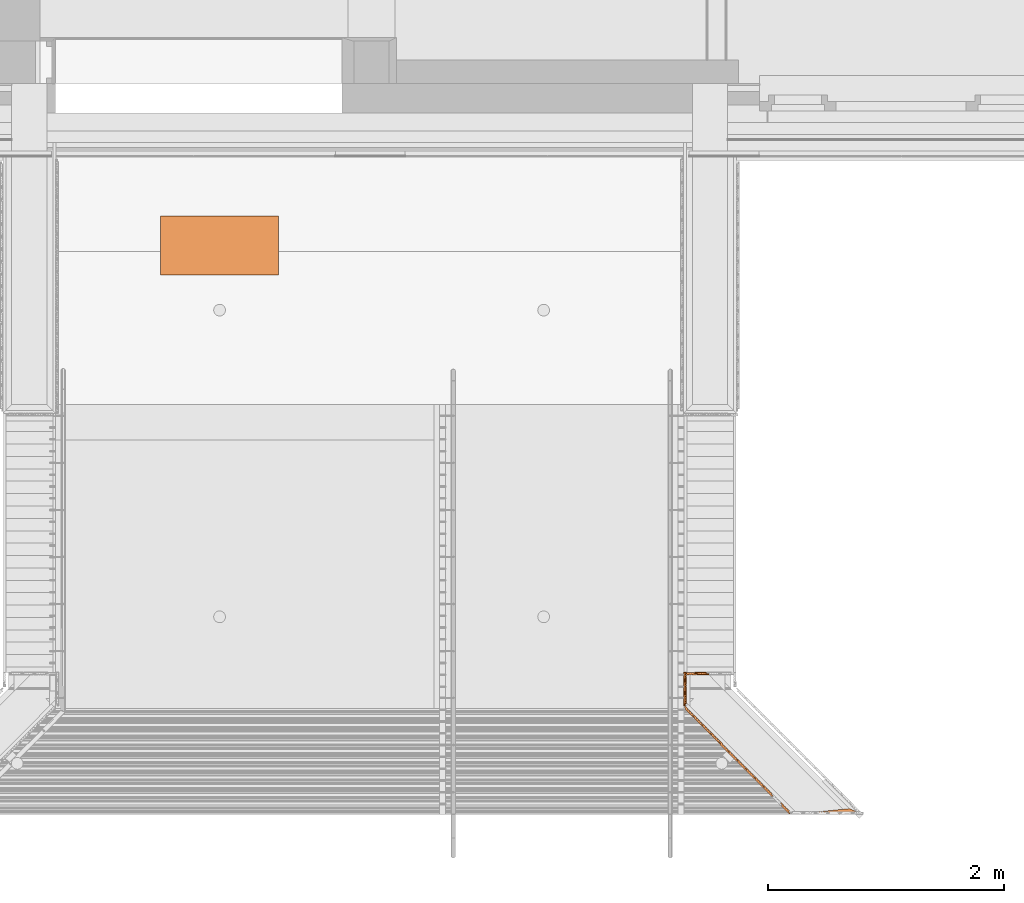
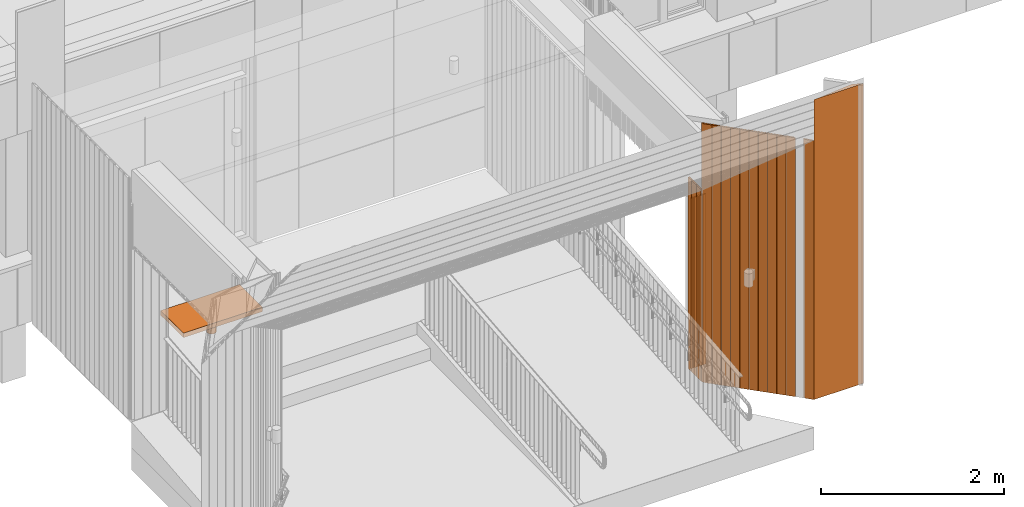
# One storey, part 347 of 418: 18 proxies.
"""IFC2X3 building model written with IfcOpenShell, lengths in millimetres."""

from ifc_helpers import new_model, entity, si_unit, converted_unit, derived_unit, money_unit, direction, frame, origin_with_axes, place, context, subcontext, project, spatial, polyline, outline, extrude, faceted_brep, source, transform, mapped, material, type_object, element, save


model = new_model("IFC2X3")

# Units and contexts
model_context = context("Model", 3, precision=0.01, world=origin_with_axes(), true_north=direction((0.0, 1.0)))
body_context = subcontext(model_context, "Body", "Model", "MODEL_VIEW")
ifc_project = project(units=[si_unit("LENGTHUNIT", "METRE", prefix="MILLI"), si_unit("AREAUNIT", "SQUARE_METRE"), si_unit("VOLUMEUNIT", "CUBIC_METRE"), converted_unit("PLANEANGLEUNIT", "DEGREE", entity("IfcPlaneAngleMeasure", 0.0174532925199), si_unit("PLANEANGLEUNIT", "RADIAN"), dimensions=[0, 0, 0, 0, 0, 0, 0]), si_unit("SOLIDANGLEUNIT", "STERADIAN"), money_unit("EUR"), converted_unit("TIMEUNIT", "Year", entity("IfcTimeMeasure", 31556926.0), si_unit("TIMEUNIT", "SECOND"), dimensions=[0, 0, 1, 0, 0, 0, 0]), si_unit("MASSUNIT", "GRAM", prefix="KILO"), si_unit("THERMODYNAMICTEMPERATUREUNIT", "DEGREE_CELSIUS"), si_unit("LUMINOUSINTENSITYUNIT", "LUMEN"), si_unit("ENERGYUNIT", "JOULE", prefix="MEGA"), derived_unit("THERMALCONDUCTANCEUNIT", [(si_unit("POWERUNIT", "WATT"), 1), (si_unit("LENGTHUNIT", "METRE"), -1), (si_unit("THERMODYNAMICTEMPERATUREUNIT", "KELVIN"), -1)]), derived_unit("SPECIFICHEATCAPACITYUNIT", [(si_unit("ENERGYUNIT", "JOULE"), 1), (si_unit("MASSUNIT", "GRAM", prefix="KILO"), -1), (si_unit("THERMODYNAMICTEMPERATUREUNIT", "KELVIN"), -1)]), derived_unit("MASSDENSITYUNIT", [(si_unit("MASSUNIT", "GRAM", prefix="KILO"), 1), (si_unit("VOLUMEUNIT", "CUBIC_METRE"), -1)])], contexts=[model_context])

# Site, building, storey
site_placement = place(None, origin_with_axes())
site = spatial("IfcSite", under=ifc_project, at=site_placement, Name="Paldiski mnt 245/1, Tallinn, Harjumaa", CompositionType="COMPLEX")
building_placement = place(site_placement, origin_with_axes())
building = spatial("IfcBuilding", under=site, at=building_placement, Name="RKAS Hoone üldnimetus (kasutust iseloomustav) -> IFC Project Manager -> SOLIBRI", CompositionType="ELEMENT")
storey_placement = place(building_placement, origin_with_axes())
storey = spatial("IfcBuildingStorey", under=building, at=storey_placement, Name="Esimene korrus", CompositionType="ELEMENT", Elevation=0.0)

# Proxies
ifc_material_1 = material(Name="SKR-01_Õhkvahe - Raam")
building_element_proxy_type_1 = type_object("IfcBuildingElementProxyType", Name="Varikatuse_sein ots 50", PredefinedType="NOTDEFINED")
proxy_1_placement = place(storey_placement, frame((-37269.2339072, -18705.5141429, 0.0), z_axis=(0.0, 0.0, 1.0), x_axis=(-1.0, 0.0, 0.0)))
element("IfcBuildingElementProxy", 1, at=proxy_1_placement, inside=storey, type_object=building_element_proxy_type_1, material=ifc_material_1, Name="Varikatus", context=body_context, shape_type="SweptSolid", body=[
    extrude(outline(polyline([(120.490210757, -50.0), (109.191108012, -50.0), (624.275426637, 0.0), (0.0, 0.0), (120.490210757, -50.0)])), origin_with_axes(), (0.0, 0.0, 1.0), 4011.14918811),
])
ifc_material_2 = material(Name="ET-01_Puit - Konstruktsioon")
building_element_proxy_type_2 = type_object("IfcBuildingElementProxyType", Name="ET-01_Puit - Konstruktsioon 2280", PredefinedType="NOTDEFINED")
proxy_2_placement = place(storey_placement, frame((-38580.0000002, -17512.4093649, 2280.0), z_axis=(0.0, 0.0, 1.0), x_axis=(1.0, 0.0, 0.0)))
element("IfcBuildingElementProxy", 2, at=proxy_2_placement, inside=storey, type_object=building_element_proxy_type_2, material=ifc_material_2, Name="Varikatus", context=body_context, shape_type="SweptSolid", body=[
    extrude(outline(polyline([(0.0, 0.0), (-20.0000005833, -3.20746096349e-07), (-20.0000004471, 10.500001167), (-120.000000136, 10.5000010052), (-120.000000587, 0.500001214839), (-100.000001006, 0.500000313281), (-100.000000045, -10.4999994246), (-85.423812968, -10.4999997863), (-85.4238127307, -3.5000002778), (-79.7831443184, -3.49999963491), (-79.7831433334, -10.5000001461), (-64.9546509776, -10.4999992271), (-64.9546507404, -3.49999971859), (-58.8277100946, -3.4999992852), (-58.8277103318, -10.4999987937), (-43.8885931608, -10.4999989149), (-43.8885929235, -3.49999940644), (-37.5260958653, -3.4999997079), (-37.5260948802, -10.5000002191), (-3.55868223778e-07, -10.4999992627), (0.0, 0.0)])), frame((0.0, 0.0, -2280.0), z_axis=(0.0, 0.0, 1.0), x_axis=(1.0, 0.0, 0.0)), (0.0, 0.0, 1.0), 2280.0),
])
proxy_3_placement = place(storey_placement, frame((-38685.0000003, -17522.9093638, 2280.0), z_axis=(0.0, 0.0, 1.0), x_axis=(1.0, 0.0, 0.0)))
element("IfcBuildingElementProxy", 3, at=proxy_3_placement, inside=storey, type_object=building_element_proxy_type_2, material=ifc_material_2, Name="Varikatus", context=body_context, shape_type="SweptSolid", body=[
    extrude(outline(polyline([(0.0, 0.0), (-4.75779415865e-08, 10.4999989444), (-20.0000010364, 10.4999988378), (-20.0000004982, 21.0000003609), (-85.4238126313, 21.0000000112), (-85.4238125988, 6.99999889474), (-79.7831442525, 6.99999907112), (-79.7831438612, -1.02994945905e-06), (-64.954651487, -4.56356730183e-07), (-64.9546509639, 6.99999889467), (-58.8277100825, 6.99999912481), (-58.8277106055, -2.26215490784e-07), (-43.8885924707, -6.59738930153e-09), (-43.8885928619, 7.00000009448), (-37.5260959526, 6.99999911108), (-37.526094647, -1.74003034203e-06), (0.0, 0.0)])), frame((0.0, 0.0, -2280.0), z_axis=(0.0, 0.0, 1.0), x_axis=(1.0, 0.0, 0.0)), (0.0, 0.0, 1.0), 2280.0),
])
ifc_material_3 = material(Name="Raud")
building_element_proxy_type_3 = type_object("IfcBuildingElementProxyType", Name="Jalatsipuhastusrest", PredefinedType="NOTDEFINED")
shared_shape = source(origin_with_axes(), body_context, "Body", "Brep", [
    faceted_brep([(5.0, 995.0, 280.0), (5.0, 5.0, 280.0), (5.0, 5.0, 300.0), (5.0, 995.0, 300.0), (495.0, 995.0, 280.0), (495.0, 5.0, 280.0), (495.0, 5.0, 300.0), (495.0, 995.0, 300.0)], [[[0, 1, 2, 3]], [[0, 4, 5, 1]], [[1, 5, 6, 2]], [[3, 2, 6, 7]], [[4, 0, 3, 7]], [[5, 4, 7, 6]]]),
    faceted_brep([(0.0, 1000.0, 240.0), (0.0, 0.0, 240.0), (0.0, 0.0, 300.0), (0.0, 1000.0, 300.0), (500.0, 1000.0, 240.0), (500.0, 0.0, 240.0), (5.0, 995.0, 240.0), (5.0, 5.0, 240.0), (495.0, 5.0, 240.0), (495.0, 995.0, 240.0), (500.0, 0.0, 300.0), (500.0, 1000.0, 300.0), (5.0, 995.0, 300.0), (495.0, 995.0, 300.0), (495.0, 5.0, 300.0), (5.0, 5.0, 300.0)], [[[0, 1, 2, 3]], [[0, 4, 5, 1], [6, 7, 8, 9]], [[1, 5, 10, 2]], [[3, 2, 10, 11], [12, 13, 14, 15]], [[4, 0, 3, 11]], [[5, 4, 11, 10]], [[7, 6, 12, 15]], [[8, 7, 15, 14]], [[9, 8, 14, 13]], [[6, 9, 13, 12]]]),
    faceted_brep([(0.0, 1000.0, 240.0), (0.0, 0.0, 240.0), (0.0, 0.0, 245.0), (0.0, 1000.0, 245.0), (500.0, 1000.0, 240.0), (500.0, 0.0, 240.0), (195.0, 495.1881235, 240.0), (196.67114717, 485.71057695, 240.0), (199.96266455, 476.66720728, 240.0), (204.77454104, 468.33279271, 240.0), (210.96057022, 460.96057022, 240.0), (218.33279272, 454.77454104, 240.0), (226.66720729, 449.96266454, 240.0), (235.71057695, 446.67114717, 240.0), (245.18812351, 445.0, 240.0), (254.8118765, 445.0, 240.0), (264.28942305, 446.67114717, 240.0), (273.33279272, 449.96266454, 240.0), (281.66720729, 454.77454104, 240.0), (289.03942978, 460.96057022, 240.0), (295.22545896, 468.33279271, 240.0), (300.03733546, 476.66720728, 240.0), (303.32885283, 485.71057695, 240.0), (305.0, 495.1881235, 240.0), (305.0, 500.0, 240.0), (305.0, 504.81187649, 240.0), (303.32885283, 514.28942305, 240.0), (300.03733546, 523.33279271, 240.0), (295.22545896, 531.66720728, 240.0), (289.03942978, 539.03942978, 240.0), (281.66720729, 545.22545896, 240.0), (273.33279272, 550.03733545, 240.0), (264.28942305, 553.32885283, 240.0), (254.8118765, 555.0, 240.0), (245.18812351, 555.0, 240.0), (235.71057695, 553.32885283, 240.0), (226.66720729, 550.03733545, 240.0), (218.33279272, 545.22545896, 240.0), (210.96057022, 539.03942978, 240.0), (204.77454104, 531.66720728, 240.0), (199.96266455, 523.33279271, 240.0), (196.67114717, 514.28942305, 240.0), (195.0, 504.81187649, 240.0), (500.0, 0.0, 245.0), (500.0, 1000.0, 245.0), (195.0, 495.1881235, 245.0), (195.0, 504.81187649, 245.0), (196.67114717, 514.28942305, 245.0), (199.96266455, 523.33279271, 245.0), (204.77454104, 531.66720728, 245.0), (210.96057022, 539.03942978, 245.0), (218.33279272, 545.22545896, 245.0), (226.66720729, 550.03733545, 245.0), (235.71057695, 553.32885283, 245.0), (245.18812351, 555.0, 245.0), (254.8118765, 555.0, 245.0), (264.28942305, 553.32885283, 245.0), (273.33279272, 550.03733545, 245.0), (281.66720729, 545.22545896, 245.0), (289.03942978, 539.03942978, 245.0), (295.22545896, 531.66720728, 245.0), (300.03733546, 523.33279271, 245.0), (303.32885283, 514.28942305, 245.0), (305.0, 504.81187649, 245.0), (305.0, 500.0, 245.0), (305.0, 495.1881235, 245.0), (303.32885283, 485.71057695, 245.0), (300.03733546, 476.66720728, 245.0), (295.22545896, 468.33279271, 245.0), (289.03942978, 460.96057022, 245.0), (281.66720729, 454.77454104, 245.0), (273.33279272, 449.96266454, 245.0), (264.28942305, 446.67114717, 245.0), (254.8118765, 445.0, 245.0), (245.18812351, 445.0, 245.0), (235.71057695, 446.67114717, 245.0), (226.66720729, 449.96266454, 245.0), (218.33279272, 454.77454104, 245.0), (210.96057022, 460.96057022, 245.0), (204.77454104, 468.33279271, 245.0), (199.96266455, 476.66720728, 245.0), (196.67114717, 485.71057695, 245.0)], [[[0, 1, 2, 3]], [[0, 4, 5, 1], [6, 7, 8, 9, 10, 11, 12, 13, 14, 15, 16, 17, 18, 19, 20, 21, 22, 23, 24, 25, 26, 27, 28, 29, 30, 31, 32, 33, 34, 35, 36, 37, 38, 39, 40, 41, 42]], [[1, 5, 43, 2]], [[3, 2, 43, 44], [45, 46, 47, 48, 49, 50, 51, 52, 53, 54, 55, 56, 57, 58, 59, 60, 61, 62, 63, 64, 65, 66, 67, 68, 69, 70, 71, 72, 73, 74, 75, 76, 77, 78, 79, 80, 81]], [[4, 0, 3, 44]], [[5, 4, 44, 43]], [[7, 6, 45, 81]], [[8, 7, 81, 80]], [[9, 8, 80, 79]], [[10, 9, 79, 78]], [[11, 10, 78, 77]], [[12, 11, 77, 76]], [[13, 12, 76, 75]], [[14, 13, 75, 74]], [[15, 14, 74, 73]], [[16, 15, 73, 72]], [[17, 16, 72, 71]], [[18, 17, 71, 70]], [[19, 18, 70, 69]], [[20, 19, 69, 68]], [[21, 20, 68, 67]], [[22, 21, 67, 66]], [[23, 22, 66, 65]], [[24, 23, 65, 64]], [[25, 24, 64, 63]], [[26, 25, 63, 62]], [[27, 26, 62, 61]], [[28, 27, 61, 60]], [[29, 28, 60, 59]], [[30, 29, 59, 58]], [[31, 30, 58, 57]], [[32, 31, 57, 56]], [[33, 32, 56, 55]], [[34, 33, 55, 54]], [[35, 34, 54, 53]], [[36, 35, 53, 52]], [[37, 36, 52, 51]], [[38, 37, 51, 50]], [[39, 38, 50, 49]], [[40, 39, 49, 48]], [[41, 40, 48, 47]], [[42, 41, 47, 46]], [[6, 42, 46, 45]]]),
    faceted_brep([(305.0, 500.0, 0.0), (303.125920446, 485.764952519, 0.0), (297.631397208, 472.5, 0.0), (288.890872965, 461.109127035, 0.0), (277.5, 452.368602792, 0.0), (264.235047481, 446.874079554, 0.0), (250.0, 445.0, 0.0), (235.764952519, 446.874079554, 0.0), (222.5, 452.368602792, 0.0), (211.109127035, 461.109127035, 0.0), (202.368602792, 472.5, 0.0), (196.874079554, 485.764952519, 0.0), (195.0, 500.0, 0.0), (196.874079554, 514.235047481, 0.0), (202.368602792, 527.5, 0.0), (211.109127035, 538.890872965, 0.0), (222.5, 547.631397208, 0.0), (235.764952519, 553.125920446, 0.0), (250.0, 555.0, 0.0), (264.235047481, 553.125920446, 0.0), (277.5, 547.631397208, 0.0), (288.890872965, 538.890872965, 0.0), (297.631397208, 527.5, 0.0), (303.125920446, 514.235047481, 0.0), (293.301270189, 475.0, 0.0), (298.296291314, 487.059047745, 0.0), (300.0, 500.0, 0.0), (298.296291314, 512.940952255, 0.0), (293.301270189, 525.0, 0.0), (285.355339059, 535.355339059, 0.0), (275.0, 543.301270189, 0.0), (262.940952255, 548.296291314, 0.0), (250.0, 550.0, 0.0), (237.059047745, 548.296291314, 0.0), (225.0, 543.301270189, 0.0), (214.644660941, 535.355339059, 0.0), (206.698729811, 525.0, 0.0), (201.703708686, 512.940952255, 0.0), (200.0, 500.0, 0.0), (201.703708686, 487.059047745, 0.0), (206.698729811, 475.0, 0.0), (214.644660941, 464.644660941, 0.0), (225.0, 456.698729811, 0.0), (237.059047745, 451.703708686, 0.0), (250.0, 450.0, 0.0), (262.940952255, 451.703708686, 0.0), (275.0, 456.698729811, 0.0), (285.355339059, 464.644660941, 0.0), (303.125920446, 485.764952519, 240.0), (305.0, 500.0, 240.0), (297.631397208, 472.5, 240.0), (288.890872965, 461.109127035, 240.0), (277.5, 452.368602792, 240.0), (264.235047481, 446.874079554, 240.0), (250.0, 445.0, 240.0), (235.764952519, 446.874079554, 240.0), (222.5, 452.368602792, 240.0), (211.109127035, 461.109127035, 240.0), (202.368602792, 472.5, 240.0), (196.874079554, 485.764952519, 240.0), (195.0, 500.0, 240.0), (196.874079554, 514.235047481, 240.0), (202.368602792, 527.5, 240.0), (211.109127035, 538.890872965, 240.0), (222.5, 547.631397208, 240.0), (235.764952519, 553.125920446, 240.0), (250.0, 555.0, 240.0), (264.235047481, 553.125920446, 240.0), (277.5, 547.631397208, 240.0), (288.890872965, 538.890872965, 240.0), (297.631397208, 527.5, 240.0), (303.125920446, 514.235047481, 240.0), (293.301270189, 475.0, 240.0), (298.296291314, 487.059047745, 240.0), (300.0, 500.0, 240.0), (298.296291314, 512.940952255, 240.0), (293.301270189, 525.0, 240.0), (285.355339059, 535.355339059, 240.0), (275.0, 543.301270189, 240.0), (262.940952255, 548.296291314, 240.0), (250.0, 550.0, 240.0), (237.059047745, 548.296291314, 240.0), (225.0, 543.301270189, 240.0), (214.644660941, 535.355339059, 240.0), (206.698729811, 525.0, 240.0), (201.703708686, 512.940952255, 240.0), (200.0, 500.0, 240.0), (201.703708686, 487.059047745, 240.0), (206.698729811, 475.0, 240.0), (214.644660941, 464.644660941, 240.0), (225.0, 456.698729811, 240.0), (237.059047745, 451.703708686, 240.0), (250.0, 450.0, 240.0), (262.940952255, 451.703708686, 240.0), (275.0, 456.698729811, 240.0), (285.355339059, 464.644660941, 240.0)], [[[0, 1, 2, 3, 4, 5, 6, 7, 8, 9, 10, 11, 12, 13, 14, 15, 16, 17, 18, 19, 20, 21, 22, 23], [24, 25, 26, 27, 28, 29, 30, 31, 32, 33, 34, 35, 36, 37, 38, 39, 40, 41, 42, 43, 44, 45, 46, 47]], [[48, 1, 0, 49]], [[50, 2, 1, 48]], [[51, 3, 2, 50]], [[52, 4, 3, 51]], [[53, 5, 4, 52]], [[54, 6, 5, 53]], [[55, 7, 6, 54]], [[56, 8, 7, 55]], [[57, 9, 8, 56]], [[58, 10, 9, 57]], [[59, 11, 10, 58]], [[60, 12, 11, 59]], [[61, 13, 12, 60]], [[62, 14, 13, 61]], [[63, 15, 14, 62]], [[64, 16, 15, 63]], [[65, 17, 16, 64]], [[66, 18, 17, 65]], [[67, 19, 18, 66]], [[68, 20, 19, 67]], [[69, 21, 20, 68]], [[70, 22, 21, 69]], [[71, 23, 22, 70]], [[49, 0, 23, 71]], [[72, 73, 25, 24]], [[73, 74, 26, 25]], [[74, 75, 27, 26]], [[75, 76, 28, 27]], [[76, 77, 29, 28]], [[77, 78, 30, 29]], [[78, 79, 31, 30]], [[79, 80, 32, 31]], [[80, 81, 33, 32]], [[81, 82, 34, 33]], [[82, 83, 35, 34]], [[83, 84, 36, 35]], [[84, 85, 37, 36]], [[85, 86, 38, 37]], [[86, 87, 39, 38]], [[87, 88, 40, 39]], [[88, 89, 41, 40]], [[89, 90, 42, 41]], [[90, 91, 43, 42]], [[91, 92, 44, 43]], [[92, 93, 45, 44]], [[93, 94, 46, 45]], [[94, 95, 47, 46]], [[95, 72, 24, 47]], [[50, 48, 49, 71, 70, 69, 68, 67, 66, 65, 64, 63, 62, 61, 60, 59, 58, 57, 56, 55, 54, 53, 52, 51], [76, 75, 74, 73, 72, 95, 94, 93, 92, 91, 90, 89, 88, 87, 86, 85, 84, 83, 82, 81, 80, 79, 78, 77]]]),
])
proxy_4_placement = place(storey_placement, frame((-43228.1214277, -13630.0843011, -320.0), z_axis=(0.0, 0.0, 1.0), x_axis=(0.0, -1.0, 0.0)))
element("IfcBuildingElementProxy", 4, at=proxy_4_placement, inside=storey, type_object=building_element_proxy_type_3, material=ifc_material_3, Name="Jalatsipuhastusrest", context=body_context, shape_type="MappedRepresentation", body=[
    mapped(shared_shape, transform((0.0, 0.0, 0.0))),
])
building_element_proxy_type_4 = type_object("IfcBuildingElementProxyType", Name="ET-01_Puit - Konstruktsioon 2560", PredefinedType="NOTDEFINED")
proxy_5_placement = place(storey_placement, frame((-38780.9238118, -17560.2632265, 2560.10177239), z_axis=(0.0, 0.0, 1.0), x_axis=(1.0, 0.0, 0.0)))
element("IfcBuildingElementProxy", 5, at=proxy_5_placement, inside=storey, type_object=building_element_proxy_type_4, material=ifc_material_2, Name="Varikatus", context=body_context, shape_type="SweptSolid", body=[
    extrude(outline(polyline([(0.0, 0.0), (3.20746096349e-07, -20.0000005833), (-10.500001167, -20.0000004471), (-10.5000010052, -120.000000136), (-0.500001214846, -120.000000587), (-0.500000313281, -100.000001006), (10.4999994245, -100.000000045), (10.4999997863, -85.423812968), (3.5000002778, -85.4238127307), (3.4999996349, -79.7831443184), (10.5000001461, -79.7831433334), (10.4999992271, -64.9546509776), (3.49999971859, -64.9546507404), (3.49999928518, -58.8277100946), (10.4999987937, -58.8277103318), (10.4999989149, -43.8885931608), (3.49999940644, -43.8885929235), (3.49999970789, -37.5260958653), (10.5000002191, -37.5260948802), (10.4999992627, -3.55861118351e-07), (0.0, 0.0)])), frame((0.0, 0.0, -2560.10177239), z_axis=(0.0, 0.0, 1.0), x_axis=(1.0, 0.0, 0.0)), (0.0, 0.0, 1.0), 2560.10177239),
])
proxy_6_placement = place(storey_placement, frame((-38780.9238118, -17665.2632265, 2560.10177239), z_axis=(0.0, 0.0, 1.0), x_axis=(1.0, 0.0, 0.0)))
element("IfcBuildingElementProxy", 6, at=proxy_6_placement, inside=storey, type_object=building_element_proxy_type_4, material=ifc_material_2, Name="Varikatus", context=body_context, shape_type="SweptSolid", body=[
    extrude(outline(polyline([(0.0, 0.0), (3.20746096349e-07, -20.0000005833), (-10.500001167, -20.0000004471), (-10.5000010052, -120.000000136), (-0.500001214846, -120.000000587), (-0.500000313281, -100.000001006), (10.4999994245, -100.000000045), (10.4999997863, -85.423812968), (3.5000002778, -85.4238127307), (3.4999996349, -79.7831443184), (10.5000001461, -79.7831433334), (10.4999992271, -64.9546509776), (3.49999971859, -64.9546507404), (3.49999928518, -58.8277100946), (10.4999987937, -58.8277103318), (10.4999989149, -43.8885931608), (3.49999940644, -43.8885929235), (3.49999970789, -37.5260958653), (10.5000002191, -37.5260948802), (10.4999992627, -3.55868223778e-07), (0.0, 0.0)])), frame((0.0, 0.0, -2560.10177239), z_axis=(0.0, 0.0, 1.0), x_axis=(1.0, 0.0, 0.0)), (0.0, 0.0, 1.0), 2560.10177239),
])
proxy_7_placement = place(storey_placement, frame((-38791.4238129, -17501.9093637, 2560.10177239), z_axis=(0.0, 0.0, 1.0), x_axis=(1.0, 0.0, 0.0)))
element("IfcBuildingElementProxy", 7, at=proxy_7_placement, inside=storey, type_object=building_element_proxy_type_4, material=ifc_material_2, Name="Varikatus", context=body_context, shape_type="SweptSolid", body=[
    extrude(outline(polyline([(0.0, 0.0), (1.18738796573e-07, -73.3538628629), (9.99999990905, -73.3538633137), (10.0000008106, -53.3538637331), (21.0000005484, -53.3538627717), (21.0000009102, -38.7776756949), (14.0000014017, -38.7776754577), (14.0000007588, -33.1370070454), (21.00000127, -33.1370060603), (21.000000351, -18.3085137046), (14.0000008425, -18.3085134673), (14.0000004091, -12.1815728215), (20.9999999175, -12.1815730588), (21.0000000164, 0.0), (0.0, 0.0)])), frame((0.0, 0.0, -2560.10177239), z_axis=(0.0, 0.0, 1.0), x_axis=(1.0, 0.0, 0.0)), (0.0, 0.0, 1.0), 2560.10177239),
])
building_element_proxy_type_5 = type_object("IfcBuildingElementProxyType", Name="ET-01_Puit - Konstruktsioon 3460", PredefinedType="NOTDEFINED")
proxy_8_placement = place(storey_placement, frame((-37973.2437452, -18610.903064, 3459.91760543), z_axis=(0.0, 0.0, 1.0), x_axis=(1.0, 0.0, 0.0)))
element("IfcBuildingElementProxy", 8, at=proxy_8_placement, inside=storey, type_object=building_element_proxy_type_5, material=ifc_material_2, Name="Varikatus", context=body_context, shape_type="SweptSolid", body=[
    extrude(outline(polyline([(0.0, 0.0), (14.1238329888, -14.160415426), (6.68961383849, -21.5754283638), (77.3087754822, -92.3775042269), (84.3889832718, -85.3155885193), (70.2651518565, -71.15517294), (78.0533793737, -63.3870646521), (67.7597985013, -53.0668213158), (62.8036533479, -58.0101621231), (58.820260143, -54.0164522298), (63.7764051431, -49.073109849), (53.3046474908, -38.5742300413), (48.3485023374, -43.5175708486), (44.0217079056, -39.1795699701), (48.977853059, -34.2362291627), (38.427973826, -23.6590239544), (33.4718286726, -28.6023647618), (28.9786867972, -24.0975845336), (33.9348317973, -19.1542421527), (7.43421773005, 7.41501121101), (0.0, 0.0)])), frame((0.0, 0.0, -3459.91760543), z_axis=(0.0, 0.0, 1.0), x_axis=(1.0, 0.0, 0.0)), (0.0, 0.0, 1.0), 3459.91760543),
])
proxy_9_placement = place(storey_placement, frame((-38788.8950578, -17793.1390784, 3459.91760543), z_axis=(0.0, 0.0, 1.0), x_axis=(1.0, 0.0, 0.0)))
element("IfcBuildingElementProxy", 9, at=proxy_9_placement, inside=storey, type_object=building_element_proxy_type_5, material=ifc_material_2, Name="Varikatus", context=body_context, shape_type="SweptSolid", body=[
    extrude(outline(polyline([(0.0, 0.0), (14.1238329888, -14.160415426), (6.6896138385, -21.5754283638), (77.3087754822, -92.3775042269), (84.3889832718, -85.3155885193), (70.2651518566, -71.15517294), (78.0533793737, -63.3870646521), (67.7597985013, -53.0668213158), (62.8036533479, -58.0101621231), (58.820260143, -54.0164522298), (63.7764051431, -49.0731098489), (53.3046474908, -38.5742300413), (48.3485023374, -43.5175708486), (44.0217079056, -39.17956997), (48.977853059, -34.2362291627), (38.427973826, -23.6590239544), (33.4718286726, -28.6023647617), (28.9786867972, -24.0975845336), (33.9348317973, -19.1542421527), (7.43421773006, 7.41501121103), (0.0, 0.0)])), frame((0.0, 0.0, -3459.91760543), z_axis=(0.0, 0.0, 1.0), x_axis=(1.0, 0.0, 0.0)), (0.0, 0.0, 1.0), 3459.91760543),
])
proxy_10_placement = place(storey_placement, frame((-38714.7449385, -17867.4812589, 3459.91760543), z_axis=(0.0, 0.0, 1.0), x_axis=(1.0, 0.0, 0.0)))
element("IfcBuildingElementProxy", 10, at=proxy_10_placement, inside=storey, type_object=building_element_proxy_type_5, material=ifc_material_2, Name="Varikatus", context=body_context, shape_type="SweptSolid", body=[
    extrude(outline(polyline([(0.0, 0.0), (14.1238329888, -14.160415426), (6.68961383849, -21.5754283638), (77.3087754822, -92.3775042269), (84.3889832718, -85.3155885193), (70.2651518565, -71.15517294), (78.0533793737, -63.3870646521), (67.7597985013, -53.0668213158), (62.8036533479, -58.0101621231), (58.820260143, -54.0164522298), (63.7764051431, -49.0731098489), (53.3046474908, -38.5742300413), (48.3485023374, -43.5175708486), (44.0217079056, -39.17956997), (48.977853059, -34.2362291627), (38.427973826, -23.6590239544), (33.4718286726, -28.6023647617), (28.9786867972, -24.0975845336), (33.9348317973, -19.1542421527), (7.43421773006, 7.41501121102), (0.0, 0.0)])), frame((0.0, 0.0, -3459.91760543), z_axis=(0.0, 0.0, 1.0), x_axis=(1.0, 0.0, 0.0)), (0.0, 0.0, 1.0), 3459.91760543),
])
proxy_11_placement = place(storey_placement, frame((-38640.5948192, -17941.8234394, 3459.91760543), z_axis=(0.0, 0.0, 1.0), x_axis=(1.0, 0.0, 0.0)))
element("IfcBuildingElementProxy", 11, at=proxy_11_placement, inside=storey, type_object=building_element_proxy_type_5, material=ifc_material_2, Name="Varikatus", context=body_context, shape_type="SweptSolid", body=[
    extrude(outline(polyline([(0.0, 0.0), (14.1238329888, -14.160415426), (6.68961383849, -21.5754283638), (77.3087754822, -92.3775042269), (84.3889832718, -85.3155885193), (70.2651518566, -71.15517294), (78.0533793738, -63.3870646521), (67.7597985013, -53.0668213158), (62.8036533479, -58.0101621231), (58.820260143, -54.0164522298), (63.7764051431, -49.0731098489), (53.3046474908, -38.5742300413), (48.3485023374, -43.5175708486), (44.0217079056, -39.17956997), (48.977853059, -34.2362291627), (38.427973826, -23.6590239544), (33.4718286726, -28.6023647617), (28.9786867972, -24.0975845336), (33.9348317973, -19.1542421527), (7.43421773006, 7.41501121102), (0.0, 0.0)])), frame((0.0, 0.0, -3459.91760543), z_axis=(0.0, 0.0, 1.0), x_axis=(1.0, 0.0, 0.0)), (0.0, 0.0, 1.0), 3459.91760543),
])
proxy_12_placement = place(storey_placement, frame((-38566.4446998, -18016.1656199, 3459.91760543), z_axis=(0.0, 0.0, 1.0), x_axis=(1.0, 0.0, 0.0)))
element("IfcBuildingElementProxy", 12, at=proxy_12_placement, inside=storey, type_object=building_element_proxy_type_5, material=ifc_material_2, Name="Varikatus", context=body_context, shape_type="SweptSolid", body=[
    extrude(outline(polyline([(0.0, 0.0), (14.1238329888, -14.160415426), (6.68961383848, -21.5754283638), (77.3087754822, -92.3775042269), (84.3889832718, -85.3155885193), (70.2651518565, -71.15517294), (78.0533793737, -63.3870646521), (67.7597985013, -53.0668213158), (62.8036533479, -58.0101621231), (58.820260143, -54.0164522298), (63.7764051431, -49.073109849), (53.3046474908, -38.5742300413), (48.3485023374, -43.5175708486), (44.0217079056, -39.1795699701), (48.977853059, -34.2362291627), (38.427973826, -23.6590239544), (33.4718286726, -28.6023647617), (28.9786867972, -24.0975845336), (33.9348317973, -19.1542421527), (7.43421773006, 7.41501121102), (0.0, 0.0)])), frame((0.0, 0.0, -3459.91760543), z_axis=(0.0, 0.0, 1.0), x_axis=(1.0, 0.0, 0.0)), (0.0, 0.0, 1.0), 3459.91760543),
])
proxy_13_placement = place(storey_placement, frame((-38492.2945805, -18090.5078004, 3459.91760543), z_axis=(0.0, 0.0, 1.0), x_axis=(1.0, 0.0, 0.0)))
element("IfcBuildingElementProxy", 13, at=proxy_13_placement, inside=storey, type_object=building_element_proxy_type_5, material=ifc_material_2, Name="Varikatus", context=body_context, shape_type="SweptSolid", body=[
    extrude(outline(polyline([(0.0, 0.0), (14.1238329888, -14.160415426), (6.68961383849, -21.5754283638), (77.3087754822, -92.3775042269), (84.3889832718, -85.3155885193), (70.2651518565, -71.15517294), (78.0533793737, -63.3870646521), (67.7597985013, -53.0668213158), (62.8036533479, -58.0101621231), (58.8202601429, -54.0164522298), (63.7764051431, -49.073109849), (53.3046474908, -38.5742300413), (48.3485023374, -43.5175708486), (44.0217079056, -39.1795699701), (48.977853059, -34.2362291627), (38.427973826, -23.6590239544), (33.4718286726, -28.6023647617), (28.9786867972, -24.0975845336), (33.9348317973, -19.1542421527), (7.43421773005, 7.41501121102), (0.0, 0.0)])), frame((0.0, 0.0, -3459.91760543), z_axis=(0.0, 0.0, 1.0), x_axis=(1.0, 0.0, 0.0)), (0.0, 0.0, 1.0), 3459.91760543),
])
proxy_14_placement = place(storey_placement, frame((-38418.1444612, -18164.8499809, 3459.91760543), z_axis=(0.0, 0.0, 1.0), x_axis=(1.0, 0.0, 0.0)))
element("IfcBuildingElementProxy", 14, at=proxy_14_placement, inside=storey, type_object=building_element_proxy_type_5, material=ifc_material_2, Name="Varikatus", context=body_context, shape_type="SweptSolid", body=[
    extrude(outline(polyline([(0.0, 0.0), (14.1238329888, -14.160415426), (6.68961383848, -21.5754283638), (77.3087754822, -92.3775042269), (84.3889832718, -85.3155885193), (70.2651518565, -71.15517294), (78.0533793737, -63.3870646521), (67.7597985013, -53.0668213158), (62.8036533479, -58.0101621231), (58.8202601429, -54.0164522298), (63.7764051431, -49.0731098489), (53.3046474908, -38.5742300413), (48.3485023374, -43.5175708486), (44.0217079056, -39.1795699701), (48.977853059, -34.2362291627), (38.427973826, -23.6590239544), (33.4718286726, -28.6023647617), (28.9786867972, -24.0975845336), (33.9348317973, -19.1542421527), (7.43421773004, 7.41501121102), (0.0, 0.0)])), frame((0.0, 0.0, -3459.91760543), z_axis=(0.0, 0.0, 1.0), x_axis=(1.0, 0.0, 0.0)), (0.0, 0.0, 1.0), 3459.91760543),
])
proxy_15_placement = place(storey_placement, frame((-38343.9943419, -18239.1921614, 3459.91760543), z_axis=(0.0, 0.0, 1.0), x_axis=(1.0, 0.0, 0.0)))
element("IfcBuildingElementProxy", 15, at=proxy_15_placement, inside=storey, type_object=building_element_proxy_type_5, material=ifc_material_2, Name="Varikatus", context=body_context, shape_type="SweptSolid", body=[
    extrude(outline(polyline([(0.0, 0.0), (14.1238329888, -14.160415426), (6.6896138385, -21.5754283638), (77.3087754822, -92.3775042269), (84.3889832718, -85.3155885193), (70.2651518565, -71.15517294), (78.0533793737, -63.3870646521), (67.7597985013, -53.0668213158), (62.8036533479, -58.0101621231), (58.820260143, -54.0164522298), (63.7764051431, -49.073109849), (53.3046474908, -38.5742300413), (48.3485023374, -43.5175708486), (44.0217079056, -39.1795699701), (48.977853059, -34.2362291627), (38.427973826, -23.6590239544), (33.4718286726, -28.6023647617), (28.9786867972, -24.0975845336), (33.9348317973, -19.1542421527), (7.43421773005, 7.41501121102), (0.0, 0.0)])), frame((0.0, 0.0, -3459.91760543), z_axis=(0.0, 0.0, 1.0), x_axis=(1.0, 0.0, 0.0)), (0.0, 0.0, 1.0), 3459.91760543),
])
proxy_16_placement = place(storey_placement, frame((-38269.8442225, -18313.5343419, 3459.91760543), z_axis=(0.0, 0.0, 1.0), x_axis=(1.0, 0.0, 0.0)))
element("IfcBuildingElementProxy", 16, at=proxy_16_placement, inside=storey, type_object=building_element_proxy_type_5, material=ifc_material_2, Name="Varikatus", context=body_context, shape_type="SweptSolid", body=[
    extrude(outline(polyline([(0.0, 0.0), (14.1238329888, -14.160415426), (6.68961383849, -21.5754283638), (77.3087754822, -92.3775042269), (84.3889832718, -85.3155885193), (70.2651518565, -71.15517294), (78.0533793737, -63.3870646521), (67.7597985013, -53.0668213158), (62.8036533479, -58.0101621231), (58.8202601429, -54.0164522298), (63.7764051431, -49.073109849), (53.3046474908, -38.5742300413), (48.3485023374, -43.5175708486), (44.0217079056, -39.1795699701), (48.977853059, -34.2362291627), (38.427973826, -23.6590239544), (33.4718286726, -28.6023647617), (28.9786867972, -24.0975845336), (33.9348317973, -19.1542421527), (7.43421773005, 7.41501121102), (0.0, 0.0)])), frame((0.0, 0.0, -3459.91760543), z_axis=(0.0, 0.0, 1.0), x_axis=(1.0, 0.0, 0.0)), (0.0, 0.0, 1.0), 3459.91760543),
])
proxy_17_placement = place(storey_placement, frame((-38195.6941032, -18387.8765225, 3459.91760543), z_axis=(0.0, 0.0, 1.0), x_axis=(1.0, 0.0, 0.0)))
element("IfcBuildingElementProxy", 17, at=proxy_17_placement, inside=storey, type_object=building_element_proxy_type_5, material=ifc_material_2, Name="Varikatus", context=body_context, shape_type="SweptSolid", body=[
    extrude(outline(polyline([(0.0, 0.0), (14.1238329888, -14.160415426), (6.68961383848, -21.5754283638), (77.3087754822, -92.3775042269), (84.3889832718, -85.3155885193), (70.2651518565, -71.15517294), (78.0533793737, -63.3870646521), (67.7597985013, -53.0668213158), (62.8036533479, -58.0101621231), (58.8202601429, -54.0164522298), (63.7764051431, -49.0731098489), (53.3046474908, -38.5742300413), (48.3485023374, -43.5175708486), (44.0217079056, -39.17956997), (48.977853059, -34.2362291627), (38.427973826, -23.6590239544), (33.4718286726, -28.6023647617), (28.9786867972, -24.0975845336), (33.9348317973, -19.1542421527), (7.43421773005, 7.41501121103), (0.0, 0.0)])), frame((0.0, 0.0, -3459.91760543), z_axis=(0.0, 0.0, 1.0), x_axis=(1.0, 0.0, 0.0)), (0.0, 0.0, 1.0), 3459.91760543),
])
proxy_18_placement = place(storey_placement, frame((-38121.5439839, -18462.218703, 3459.91760543), z_axis=(0.0, 0.0, 1.0), x_axis=(1.0, 0.0, 0.0)))
element("IfcBuildingElementProxy", 18, at=proxy_18_placement, inside=storey, type_object=building_element_proxy_type_5, material=ifc_material_2, Name="Varikatus", context=body_context, shape_type="SweptSolid", body=[
    extrude(outline(polyline([(0.0, 0.0), (14.1238329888, -14.160415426), (6.68961383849, -21.5754283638), (77.3087754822, -92.3775042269), (84.3889832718, -85.3155885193), (70.2651518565, -71.15517294), (78.0533793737, -63.3870646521), (67.7597985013, -53.0668213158), (62.8036533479, -58.0101621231), (58.820260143, -54.0164522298), (63.7764051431, -49.073109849), (53.3046474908, -38.5742300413), (48.3485023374, -43.5175708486), (44.0217079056, -39.1795699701), (48.977853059, -34.2362291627), (38.427973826, -23.6590239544), (33.4718286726, -28.6023647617), (28.9786867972, -24.0975845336), (33.9348317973, -19.1542421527), (7.43421773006, 7.41501121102), (0.0, 0.0)])), frame((0.0, 0.0, -3459.91760543), z_axis=(0.0, 0.0, 1.0), x_axis=(1.0, 0.0, 0.0)), (0.0, 0.0, 1.0), 3459.91760543),
])

save(model, "model.ifc")
